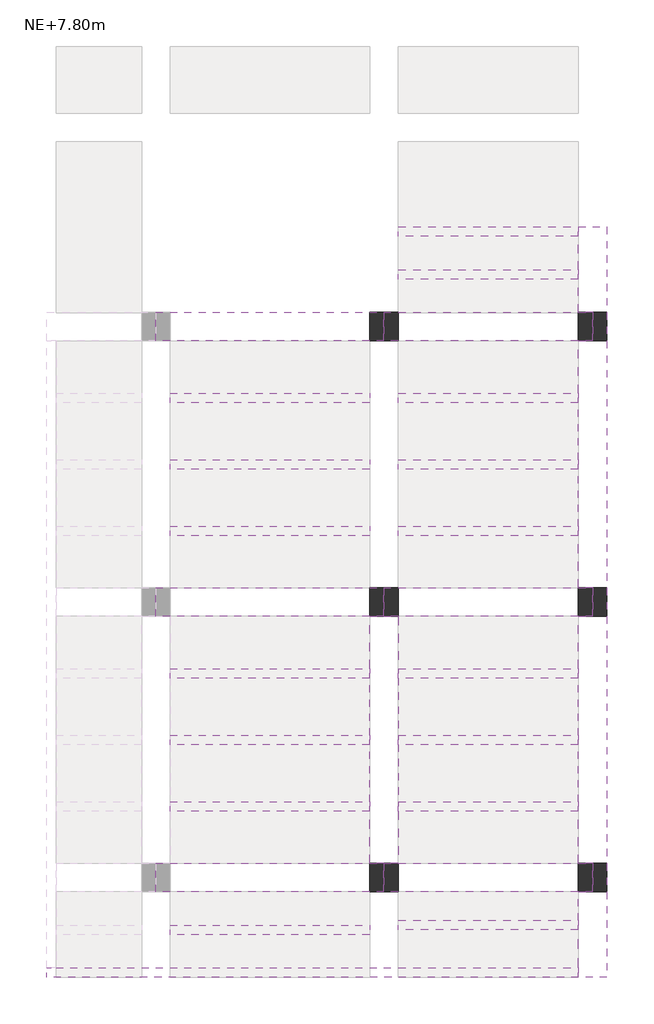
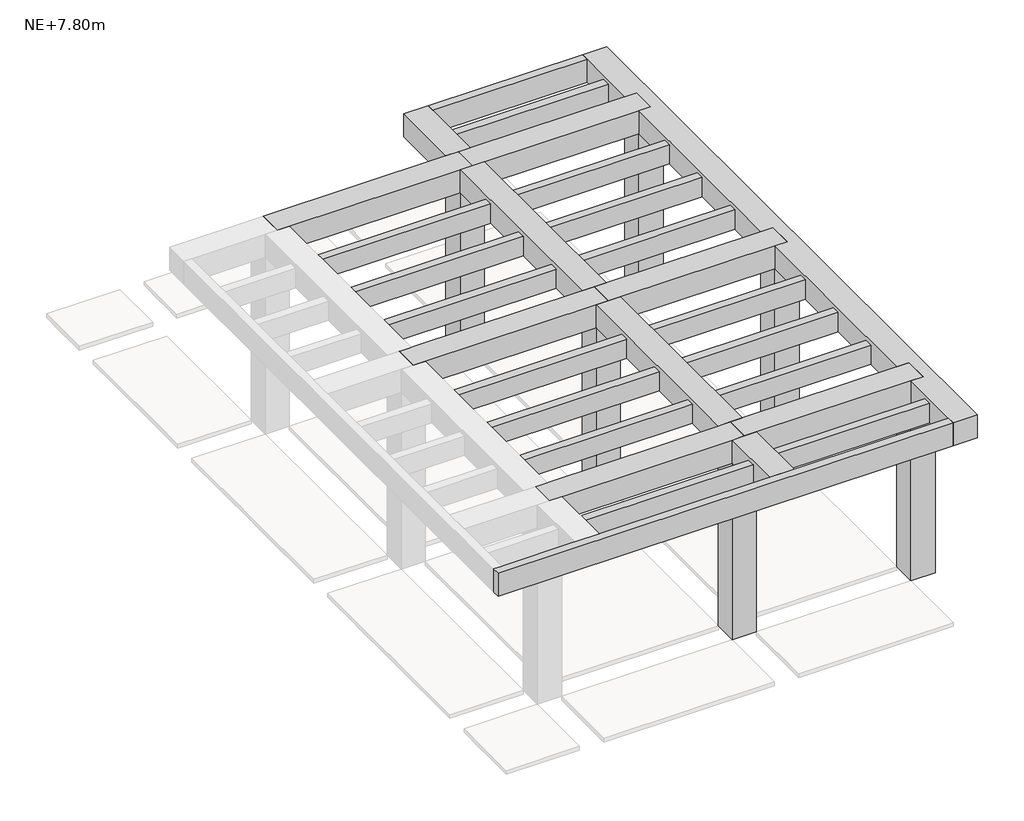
# One storey, part 2 of 2: 25 beams, 6 columns.
"""IFC4 building model written with IfcOpenShell, lengths in millimetres."""

from ifc_helpers import new_model, si_unit, frame, origin, place, context, project, spatial, polyline, outline, extrude, faceted_brep, element, save

model = new_model("IFC4")

# Units and contexts
model_context = context("Model", 3, world=origin())
ifc_project = project(units=[si_unit("LENGTHUNIT", "METRE", prefix="MILLI")], contexts=[model_context])

# Site, building, storey
site = spatial("IfcSite", under=ifc_project)
building = spatial("IfcBuilding", under=site)
storey = spatial("IfcBuildingStorey", under=building, Name="NE+7.80m", Elevation=7800.0)

# Beams
placement = place(None, origin())
element("IfcBeam", 1, ObjectType="Hormigón-Viga rectangular : VA (0.30x0.30m)", at=placement, inside=storey, context=model_context, shape_type="Brep", body=[
    faceted_brep([(1502.3188918, -1037.1867862, 10400.0), (1502.3188918, -1337.1867862, 10400.0), (1652.3188918, -1337.1867862, 10400.0), (3552.3188918, -1337.1867862, 10400.0), (3702.3188918, -1337.1867862, 10400.0), (3702.3188918, -1037.1867862, 10400.0), (3552.3188918, -1037.1867862, 10400.0), (1652.3188918, -1037.1867862, 10400.0), (3702.3188918, -1037.1867862, 10100.0), (3552.3188918, -1037.1867862, 10100.0), (1652.3188918, -1037.1867862, 10100.0), (1502.3188918, -1037.1867862, 10100.0), (3702.3188918, -1337.1867862, 10100.0), (3552.3188918, -1337.1867862, 10100.0), (1652.3188918, -1337.1867862, 10100.0), (1502.3188918, -1337.1867862, 10100.0)], [[[0, 1, 2, 3, 4, 5, 6, 7]], [[8, 9, 10, 11, 0, 7, 6, 5]], [[11, 10, 9, 8, 12, 13, 14, 15]], [[15, 14, 13, 12, 4, 3, 2, 1]], [[1, 0, 11, 15]], [[4, 12, 8, 5]]]),
])
element("IfcBeam", 2, ObjectType="Hormigón-Viga rectangular : VA (0.30x0.30m)", at=placement, inside=storey, context=model_context, shape_type="Brep", body=[
    faceted_brep([(1502.3188918, -1037.1867862, 10400.0), (1352.3188918, -1037.1867862, 10400.0), (-897.6811082, -1037.1867862, 10400.0), (-897.6811082, -1337.1867862, 10400.0), (-747.6811082, -1337.1867862, 10400.0), (1352.3188918, -1337.1867862, 10400.0), (1502.3188918, -1337.1867862, 10400.0), (1502.3188918, -1037.1867862, 10100.0), (1352.3188918, -1037.1867862, 10100.0), (-897.6811082, -1037.1867862, 10100.0), (1502.3188918, -1337.1867862, 10100.0), (1352.3188918, -1337.1867862, 10100.0), (-747.6811082, -1337.1867862, 10100.0), (-897.6811082, -1337.1867862, 10100.0)], [[[0, 1, 2, 3, 4, 5, 6]], [[2, 1, 0, 7, 8, 9]], [[9, 8, 7, 10, 11, 12, 13]], [[13, 12, 11, 10, 6, 5, 4, 3]], [[3, 2, 9, 13]], [[6, 10, 7, 0]]]),
])
element("IfcBeam", 3, ObjectType="Hormigón-Viga rectangular : VA (0.30x0.30m)", at=placement, inside=storey, context=model_context, shape_type="Brep", body=[
    faceted_brep([(1502.3188918, -3937.1867862, 10400.0), (1502.3188918, -4237.1867862, 10400.0), (1652.3188918, -4237.1867862, 10400.0), (3552.3188918, -4237.1867862, 10400.0), (3702.3188918, -4237.1867862, 10400.0), (3702.3188918, -3937.1867862, 10400.0), (3552.3188918, -3937.1867862, 10400.0), (1652.3188918, -3937.1867862, 10400.0), (3702.3188918, -3937.1867862, 10100.0), (3552.3188918, -3937.1867862, 10100.0), (1652.3188918, -3937.1867862, 10100.0), (1502.3188918, -3937.1867862, 10100.0), (3702.3188918, -4237.1867862, 10100.0), (3552.3188918, -4237.1867862, 10100.0), (1652.3188918, -4237.1867862, 10100.0), (1502.3188918, -4237.1867862, 10100.0)], [[[0, 1, 2, 3, 4, 5, 6, 7]], [[8, 9, 10, 11, 0, 7, 6, 5]], [[11, 10, 9, 8, 12, 13, 14, 15]], [[15, 14, 13, 12, 4, 3, 2, 1]], [[1, 0, 11, 15]], [[4, 12, 8, 5]]]),
])
element("IfcBeam", 4, ObjectType="Hormigón-Viga rectangular : VA (0.30x0.30m)", at=placement, inside=storey, context=model_context, shape_type="Brep", body=[
    faceted_brep([(-897.6811082, -3937.1867862, 10400.0), (-897.6811082, -4237.1867862, 10400.0), (-747.6811082, -4237.1867862, 10400.0), (1352.3188918, -4237.1867862, 10400.0), (1502.3188918, -4237.1867862, 10400.0), (1502.3188918, -3937.1867862, 10400.0), (1352.3188918, -3937.1867862, 10400.0), (-747.6811082, -3937.1867862, 10400.0), (1502.3188918, -3937.1867862, 10100.0), (1352.3188918, -3937.1867862, 10100.0), (-747.6811082, -3937.1867862, 10100.0), (-897.6811082, -3937.1867862, 10100.0), (1502.3188918, -4237.1867862, 10100.0), (1352.3188918, -4237.1867862, 10100.0), (-747.6811082, -4237.1867862, 10100.0), (-897.6811082, -4237.1867862, 10100.0)], [[[0, 1, 2, 3, 4, 5, 6, 7]], [[8, 9, 10, 11, 0, 7, 6, 5]], [[11, 10, 9, 8, 12, 13, 14, 15]], [[15, 14, 13, 12, 4, 3, 2, 1]], [[1, 0, 11, 15]], [[4, 12, 8, 5]]]),
])
element("IfcBeam", 5, ObjectType="Hormigón-Viga rectangular : VA (0.30x0.30m)", at=placement, inside=storey, context=model_context, shape_type="Brep", body=[
    faceted_brep([(3702.3188918, -7137.1867862, 10400.0), (3702.3188918, -6837.1867862, 10400.0), (3552.3188918, -6837.1867862, 10400.0), (1652.3188918, -6837.1867862, 10400.0), (1502.3188918, -6837.1867862, 10400.0), (1502.3188918, -7137.1867862, 10400.0), (1652.3188918, -7137.1867862, 10400.0), (3552.3188918, -7137.1867862, 10400.0), (3702.3188918, -6837.1867862, 10100.0), (3552.3188918, -6837.1867862, 10100.0), (1652.3188918, -6837.1867862, 10100.0), (1502.3188918, -6837.1867862, 10100.0), (3702.3188918, -7137.1867862, 10100.0), (3552.3188918, -7137.1867862, 10100.0), (1652.3188918, -7137.1867862, 10100.0), (1502.3188918, -7137.1867862, 10100.0)], [[[0, 1, 2, 3, 4, 5, 6, 7]], [[8, 9, 10, 11, 4, 3, 2, 1]], [[11, 10, 9, 8, 12, 13, 14, 15]], [[15, 14, 13, 12, 0, 7, 6, 5]], [[0, 12, 8, 1]], [[5, 4, 11, 15]]]),
])
element("IfcBeam", 6, ObjectType="Hormigón-Viga rectangular : VA (0.30x0.30m)", at=placement, inside=storey, context=model_context, shape_type="Brep", body=[
    faceted_brep([(1502.3188918, -7137.1867862, 10400.0), (1502.3188918, -6837.1867862, 10400.0), (1352.3188918, -6837.1867862, 10400.0), (-747.6811082, -6837.1867862, 10400.0), (-897.6811082, -6837.1867862, 10400.0), (-897.6811082, -7137.1867862, 10400.0), (-747.6811082, -7137.1867862, 10400.0), (1352.3188918, -7137.1867862, 10400.0), (1502.3188918, -6837.1867862, 10100.0), (1352.3188918, -6837.1867862, 10100.0), (-747.6811082, -6837.1867862, 10100.0), (-897.6811082, -6837.1867862, 10100.0), (1502.3188918, -7137.1867862, 10100.0), (1352.3188918, -7137.1867862, 10100.0), (-747.6811082, -7137.1867862, 10100.0), (-897.6811082, -7137.1867862, 10100.0)], [[[0, 1, 2, 3, 4, 5, 6, 7]], [[8, 9, 10, 11, 4, 3, 2, 1]], [[11, 10, 9, 8, 12, 13, 14, 15]], [[15, 14, 13, 12, 0, 7, 6, 5]], [[0, 12, 8, 1]], [[5, 4, 11, 15]]]),
])
element("IfcBeam", 7, ObjectType="Hormigón-Viga rectangular : VA (0.30x0.30m)", at=placement, inside=storey, context=model_context, shape_type="Brep", body=[
    faceted_brep([(3552.3188918, -1037.1867862, 10400.0), (3702.3188918, -1037.1867862, 10400.0), (3702.3188918, -1337.1867862, 10400.0), (3552.3188918, -1337.1867862, 10400.0), (3552.3188918, -3937.1867862, 10400.0), (3702.3188918, -3937.1867862, 10400.0), (3702.3188918, -4237.1867862, 10400.0), (3552.3188918, -4237.1867862, 10400.0), (3552.3188918, -6837.1867862, 10400.0), (3702.3188918, -6837.1867862, 10400.0), (3702.3188918, -7137.1867862, 10400.0), (3552.3188918, -7137.1867862, 10400.0), (3552.3188918, -7937.1867862, 10400.0), (3552.3188918, -8037.1867862, 10400.0), (3852.3188918, -8037.1867862, 10400.0), (3852.3188918, -137.1867862, 10400.0), (3552.3188918, -137.1867862, 10400.0), (3552.3188918, -237.1867862, 10400.0), (3852.3188918, -137.1867862, 10100.0), (3852.3188918, -8037.1867862, 10100.0), (3852.3188918, -7137.1867862, 10100.0), (3852.3188918, -6837.1867862, 10100.0), (3852.3188918, -4237.1867862, 10100.0), (3852.3188918, -3937.1867862, 10100.0), (3852.3188918, -1337.1867862, 10100.0), (3852.3188918, -1037.1867862, 10100.0), (3702.3188918, -1037.1867862, 10100.0), (3552.3188918, -1037.1867862, 10100.0), (3552.3188918, -687.1867862, 10100.0), (3552.3188918, -587.1867862, 10100.0), (3552.3188918, -237.1867862, 10100.0), (3552.3188918, -137.1867862, 10100.0), (3552.3188918, -8037.1867862, 10100.0), (3552.3188918, -7937.1867862, 10100.0), (3552.3188918, -7537.1867862, 10100.0), (3552.3188918, -7437.1867862, 10100.0), (3552.3188918, -7137.1867862, 10100.0), (3702.3188918, -7137.1867862, 10100.0), (3702.3188918, -6837.1867862, 10100.0), (3552.3188918, -6837.1867862, 10100.0), (3552.3188918, -6287.1867862, 10100.0), (3552.3188918, -6187.1867862, 10100.0), (3552.3188918, -5587.1867862, 10100.0), (3552.3188918, -5487.1867862, 10100.0), (3552.3188918, -4887.1867862, 10100.0), (3552.3188918, -4787.1867862, 10100.0), (3552.3188918, -4237.1867862, 10100.0), (3702.3188918, -4237.1867862, 10100.0), (3702.3188918, -3937.1867862, 10100.0), (3552.3188918, -3937.1867862, 10100.0), (3552.3188918, -3387.1867862, 10100.0), (3552.3188918, -3287.1867862, 10100.0), (3552.3188918, -2687.1867862, 10100.0), (3552.3188918, -2587.1867862, 10100.0), (3552.3188918, -1987.1867862, 10100.0), (3552.3188918, -1887.1867862, 10100.0), (3552.3188918, -1337.1867862, 10100.0), (3702.3188918, -1337.1867862, 10100.0), (3552.3188918, -7137.1867862, 10350.0), (3552.3188918, -1037.1867862, 10350.0), (3552.3188918, -1337.1867862, 10350.0), (3552.3188918, -3937.1867862, 10350.0), (3552.3188918, -4237.1867862, 10350.0), (3552.3188918, -6837.1867862, 10350.0)], [[[0, 1, 2, 3, 4, 5, 6, 7, 8, 9, 10, 11, 12, 13, 14, 15, 16, 17]], [[18, 15, 14, 19, 20, 21, 22, 23, 24, 25]], [[26, 27, 28, 29, 30, 31, 18, 25, 24, 23, 22, 21, 20, 19, 32, 33, 34, 35, 36, 37, 38, 39, 40, 41, 42, 43, 44, 45, 46, 47, 48, 49, 50, 51, 52, 53, 54, 55, 56, 57]], [[32, 13, 12, 11, 58, 36, 35, 34, 33]], [[26, 1, 0, 59, 27]], [[2, 57, 56, 60, 3]], [[1, 26, 57, 2]], [[27, 59, 0, 17, 16, 31, 30, 29, 28]], [[48, 5, 4, 61, 49]], [[6, 47, 46, 62, 7]], [[5, 48, 47, 6]], [[38, 9, 8, 63, 39]], [[10, 37, 36, 58, 11]], [[9, 38, 37, 10]], [[16, 15, 18, 31]], [[14, 13, 32, 19]], [[3, 60, 56, 55, 54, 53, 52, 51, 50, 49, 61, 4]], [[7, 62, 46, 45, 44, 43, 42, 41, 40, 39, 63, 8]]]),
])
element("IfcBeam", 8, ObjectType="Hormigón-Viga rectangular : VA (0.30x0.30m)", at=placement, inside=storey, context=model_context, shape_type="Brep", body=[
    faceted_brep([(1352.3188918, -1037.1867862, 10400.0), (1502.3188918, -1037.1867862, 10400.0), (1652.3188918, -1037.1867862, 10400.0), (1652.3188918, -237.1867862, 10400.0), (1652.3188918, -137.1867862, 10400.0), (1352.3188918, -137.1867862, 10400.0), (1352.3188918, -1037.1867862, 10100.0), (1352.3188918, -137.1867862, 10100.0), (1652.3188918, -1037.1867862, 10100.0), (1502.3188918, -1037.1867862, 10100.0), (1652.3188918, -137.1867862, 10100.0), (1652.3188918, -237.1867862, 10100.0), (1652.3188918, -587.1867862, 10100.0), (1652.3188918, -687.1867862, 10100.0), (1652.3188918, -1037.1867862, 10350.0)], [[[0, 1, 2, 3, 4, 5]], [[6, 0, 5, 7]], [[8, 9, 6, 7, 10, 11, 12, 13]], [[10, 4, 3, 2, 14, 8, 13, 12, 11]], [[0, 6, 9, 8, 14, 2, 1]], [[5, 4, 10, 7]]]),
    faceted_brep([(1352.3188918, -1337.1867862, 10400.0), (1502.3188918, -1337.1867862, 10400.0), (1652.3188918, -1337.1867862, 10400.0), (1652.3188918, -1337.1867862, 10350.0), (1652.3188918, -1337.1867862, 10100.0), (1502.3188918, -1337.1867862, 10100.0), (1352.3188918, -1337.1867862, 10100.0), (1352.3188918, -1337.1867862, 10350.0), (1652.3188918, -3937.1867862, 10400.0), (1502.3188918, -3937.1867862, 10400.0), (1352.3188918, -3937.1867862, 10400.0), (1352.3188918, -3937.1867862, 10350.0), (1352.3188918, -3937.1867862, 10100.0), (1502.3188918, -3937.1867862, 10100.0), (1652.3188918, -3937.1867862, 10100.0), (1652.3188918, -3937.1867862, 10350.0), (1652.3188918, -3387.1867862, 10100.0), (1652.3188918, -3287.1867862, 10100.0), (1652.3188918, -2687.1867862, 10100.0), (1652.3188918, -2587.1867862, 10100.0), (1652.3188918, -1987.1867862, 10100.0), (1652.3188918, -1887.1867862, 10100.0), (1352.3188918, -1887.1867862, 10100.0), (1352.3188918, -1987.1867862, 10100.0), (1352.3188918, -2587.1867862, 10100.0), (1352.3188918, -2687.1867862, 10100.0), (1352.3188918, -3287.1867862, 10100.0), (1352.3188918, -3387.1867862, 10100.0)], [[[0, 1, 2, 3, 4, 5, 6, 7]], [[8, 9, 10, 11, 12, 13, 14, 15]], [[14, 16, 17, 18, 19, 20, 21, 4, 3, 2, 8, 15]], [[2, 1, 0, 10, 9, 8]], [[10, 0, 7, 6, 22, 23, 24, 25, 26, 27, 12, 11]], [[6, 5, 4, 21, 20, 19, 18, 17, 16, 14, 13, 12, 27, 26, 25, 24, 23, 22]]]),
    faceted_brep([(1652.3188918, -6837.1867862, 10100.0), (1652.3188918, -6287.1867862, 10100.0), (1652.3188918, -6187.1867862, 10100.0), (1652.3188918, -5587.1867862, 10100.0), (1652.3188918, -5487.1867862, 10100.0), (1652.3188918, -4887.1867862, 10100.0), (1652.3188918, -4787.1867862, 10100.0), (1652.3188918, -4237.1867862, 10100.0), (1652.3188918, -4237.1867862, 10350.0), (1652.3188918, -4237.1867862, 10400.0), (1652.3188918, -6837.1867862, 10400.0), (1652.3188918, -6837.1867862, 10350.0), (1502.3188918, -4237.1867862, 10400.0), (1352.3188918, -4237.1867862, 10400.0), (1352.3188918, -6837.1867862, 10400.0), (1502.3188918, -6837.1867862, 10400.0), (1352.3188918, -4237.1867862, 10350.0), (1352.3188918, -4237.1867862, 10100.0), (1352.3188918, -4787.1867862, 10100.0), (1352.3188918, -4887.1867862, 10100.0), (1352.3188918, -5487.1867862, 10100.0), (1352.3188918, -5587.1867862, 10100.0), (1352.3188918, -6187.1867862, 10100.0), (1352.3188918, -6287.1867862, 10100.0), (1352.3188918, -6837.1867862, 10100.0), (1352.3188918, -6837.1867862, 10350.0), (1502.3188918, -4237.1867862, 10100.0), (1502.3188918, -6837.1867862, 10100.0)], [[[0, 1, 2, 3, 4, 5, 6, 7, 8, 9, 10, 11]], [[9, 12, 13, 14, 15, 10]], [[14, 13, 16, 17, 18, 19, 20, 21, 22, 23, 24, 25]], [[17, 26, 7, 6, 5, 4, 3, 2, 1, 0, 27, 24, 23, 22, 21, 20, 19, 18]], [[7, 26, 17, 16, 13, 12, 9, 8]], [[10, 15, 14, 25, 24, 27, 0, 11]]]),
    faceted_brep([(1652.3188918, -7137.1867862, 10100.0), (1502.3188918, -7137.1867862, 10100.0), (1352.3188918, -7137.1867862, 10100.0), (1352.3188918, -7137.1867862, 10350.0), (1352.3188918, -7137.1867862, 10400.0), (1502.3188918, -7137.1867862, 10400.0), (1652.3188918, -7137.1867862, 10400.0), (1652.3188918, -7137.1867862, 10350.0), (1652.3188918, -7937.1867862, 10100.0), (1652.3188918, -7537.1867862, 10100.0), (1652.3188918, -7437.1867862, 10100.0), (1652.3188918, -7937.1867862, 10400.0), (1652.3188918, -7937.1867862, 10350.0), (1352.3188918, -7937.1867862, 10400.0), (1352.3188918, -7487.1867862, 10100.0), (1352.3188918, -7587.1867862, 10100.0), (1352.3188918, -7937.1867862, 10100.0), (1352.3188918, -7937.1867862, 10350.0)], [[[0, 1, 2, 3, 4, 5, 6, 7]], [[8, 9, 10, 0, 7, 6, 11, 12]], [[6, 5, 4, 13, 11]], [[13, 4, 3, 2, 14, 15, 16, 17]], [[2, 1, 0, 10, 9, 8, 16, 15, 14]], [[11, 13, 17, 16, 8, 12]]]),
])
element("IfcBeam", 9, ObjectType="Hormigón-Viga rectangular : VB (0.10x0.30m)", at=placement, inside=storey, context=model_context, shape_type="Brep", body=[
    faceted_brep([(-2047.6811082, -7937.1867862, 10400.0), (-2047.6811082, -8037.1867862, 10400.0), (3552.3188918, -8037.1867862, 10400.0), (3552.3188918, -7937.1867862, 10400.0), (1652.3188918, -7937.1867862, 10400.0), (1352.3188918, -7937.1867862, 10400.0), (-747.6811082, -7937.1867862, 10400.0), (-1047.6811082, -7937.1867862, 10400.0), (-1947.6811082, -7937.1867862, 10400.0), (-2047.6811082, -7937.1867862, 10100.0), (3552.3188918, -7937.1867862, 10350.0), (3552.3188918, -7937.1867862, 10100.0), (1652.3188918, -7937.1867862, 10100.0), (1352.3188918, -7937.1867862, 10100.0), (-747.6811082, -7937.1867862, 10100.0), (-1047.6811082, -7937.1867862, 10100.0), (-1947.6811082, -7937.1867862, 10100.0), (-2047.6811082, -8037.1867862, 10100.0), (3552.3188918, -8037.1867862, 10100.0)], [[[0, 1, 2, 3, 4, 5, 6, 7, 8]], [[9, 0, 8, 7, 6, 5, 4, 3, 10, 11, 12, 13, 14, 15, 16]], [[17, 9, 16, 15, 14, 13, 12, 11, 18]], [[1, 17, 18, 2]], [[1, 0, 9, 17]], [[3, 2, 18, 11, 10]]]),
])
element("IfcBeam", 10, ObjectType="Hormigón-Viga rectangular : VB (0.10x0.30m)", at=placement, inside=storey, context=model_context, shape_type="Brep", body=[
    faceted_brep([(1652.3188918, -137.1867862, 10400.0), (1652.3188918, -237.1867862, 10400.0), (3552.3188918, -237.1867862, 10400.0), (3552.3188918, -137.1867862, 10400.0), (1652.3188918, -137.1867862, 10100.0), (3552.3188918, -137.1867862, 10100.0), (1652.3188918, -237.1867862, 10100.0), (3552.3188918, -237.1867862, 10100.0), (1652.3188918, -237.1867862, 10350.0), (3552.3188918, -237.1867862, 10350.0)], [[[0, 1, 2, 3]], [[4, 0, 3, 5]], [[6, 4, 5, 7]], [[1, 8, 6, 7, 9, 2]], [[1, 0, 4, 6, 8]], [[3, 2, 9, 7, 5]]]),
])
element("IfcBeam", 11, ObjectType="Hormigón-Viga rectangular : VT (0.10x0.30m)", at=placement, inside=storey, context=model_context, shape_type="SweptSolid", body=[
    extrude(outline(polyline([(3552.3188918, -7437.1867862), (3552.3188918, -7537.1867862), (1652.3188918, -7537.1867862), (1652.3188918, -7437.1867862), (3552.3188918, -7437.1867862)])), frame((0.0, 0.0, 10100.0), z_axis=(0.0, 0.0, 1.0), x_axis=(1.0, 0.0, 0.0)), (0.0, 0.0, 1.0), 250.0),
])
element("IfcBeam", 12, ObjectType="Hormigón-Viga rectangular : VT (0.10x0.30m)", at=placement, inside=storey, context=model_context, shape_type="SweptSolid", body=[
    extrude(outline(polyline([(3552.3188918, -6187.1867862), (3552.3188918, -6287.1867862), (1652.3188918, -6287.1867862), (1652.3188918, -6187.1867862), (3552.3188918, -6187.1867862)])), frame((0.0, 0.0, 10100.0), z_axis=(0.0, 0.0, 1.0), x_axis=(1.0, 0.0, 0.0)), (0.0, 0.0, 1.0), 250.0),
])
element("IfcBeam", 13, ObjectType="Hormigón-Viga rectangular : VT (0.10x0.30m)", at=placement, inside=storey, context=model_context, shape_type="SweptSolid", body=[
    extrude(outline(polyline([(3552.3188918, -5487.1867862), (3552.3188918, -5587.1867862), (1652.3188918, -5587.1867862), (1652.3188918, -5487.1867862), (3552.3188918, -5487.1867862)])), frame((0.0, 0.0, 10100.0), z_axis=(0.0, 0.0, 1.0), x_axis=(1.0, 0.0, 0.0)), (0.0, 0.0, 1.0), 250.0),
])
element("IfcBeam", 14, ObjectType="Hormigón-Viga rectangular : VT (0.10x0.30m)", at=placement, inside=storey, context=model_context, shape_type="SweptSolid", body=[
    extrude(outline(polyline([(3552.3188918, -4787.1867862), (3552.3188918, -4887.1867862), (1652.3188918, -4887.1867862), (1652.3188918, -4787.1867862), (3552.3188918, -4787.1867862)])), frame((0.0, 0.0, 10100.0), z_axis=(0.0, 0.0, 1.0), x_axis=(1.0, 0.0, 0.0)), (0.0, 0.0, 1.0), 250.0),
])
element("IfcBeam", 15, ObjectType="Hormigón-Viga rectangular : VT (0.10x0.30m)", at=placement, inside=storey, context=model_context, shape_type="SweptSolid", body=[
    extrude(outline(polyline([(1352.3188918, -6187.1867862), (1352.3188918, -6287.1867862), (-747.6811082, -6287.1867862), (-747.6811082, -6187.1867862), (1352.3188918, -6187.1867862)])), frame((0.0, 0.0, 10100.0), z_axis=(0.0, 0.0, 1.0), x_axis=(1.0, 0.0, 0.0)), (0.0, 0.0, 1.0), 250.0),
])
element("IfcBeam", 16, ObjectType="Hormigón-Viga rectangular : VT (0.10x0.30m)", at=placement, inside=storey, context=model_context, shape_type="SweptSolid", body=[
    extrude(outline(polyline([(1352.3188918, -5487.1867862), (1352.3188918, -5587.1867862), (-747.6811082, -5587.1867862), (-747.6811082, -5487.1867862), (1352.3188918, -5487.1867862)])), frame((0.0, 0.0, 10100.0), z_axis=(0.0, 0.0, 1.0), x_axis=(1.0, 0.0, 0.0)), (0.0, 0.0, 1.0), 250.0),
])
element("IfcBeam", 17, ObjectType="Hormigón-Viga rectangular : VT (0.10x0.30m)", at=placement, inside=storey, context=model_context, shape_type="SweptSolid", body=[
    extrude(outline(polyline([(1352.3188918, -4787.1867862), (1352.3188918, -4887.1867862), (-747.6811082, -4887.1867862), (-747.6811082, -4787.1867862), (1352.3188918, -4787.1867862)])), frame((0.0, 0.0, 10100.0), z_axis=(0.0, 0.0, 1.0), x_axis=(1.0, 0.0, 0.0)), (0.0, 0.0, 1.0), 250.0),
])
element("IfcBeam", 18, ObjectType="Hormigón-Viga rectangular : VT (0.10x0.30m)", at=placement, inside=storey, context=model_context, shape_type="SweptSolid", body=[
    extrude(outline(polyline([(1352.3188918, -3287.1867862), (1352.3188918, -3387.1867862), (-747.6811082, -3387.1867862), (-747.6811082, -3287.1867862), (1352.3188918, -3287.1867862)])), frame((0.0, 0.0, 10100.0), z_axis=(0.0, 0.0, 1.0), x_axis=(1.0, 0.0, 0.0)), (0.0, 0.0, 1.0), 250.0),
])
element("IfcBeam", 19, ObjectType="Hormigón-Viga rectangular : VT (0.10x0.30m)", at=placement, inside=storey, context=model_context, shape_type="SweptSolid", body=[
    extrude(outline(polyline([(1352.3188918, -2587.1867862), (1352.3188918, -2687.1867862), (-747.6811082, -2687.1867862), (-747.6811082, -2587.1867862), (1352.3188918, -2587.1867862)])), frame((0.0, 0.0, 10100.0), z_axis=(0.0, 0.0, 1.0), x_axis=(1.0, 0.0, 0.0)), (0.0, 0.0, 1.0), 250.0),
])
element("IfcBeam", 20, ObjectType="Hormigón-Viga rectangular : VT (0.10x0.30m)", at=placement, inside=storey, context=model_context, shape_type="SweptSolid", body=[
    extrude(outline(polyline([(1352.3188918, -1887.1867862), (1352.3188918, -1987.1867862), (-747.6811082, -1987.1867862), (-747.6811082, -1887.1867862), (1352.3188918, -1887.1867862)])), frame((0.0, 0.0, 10100.0), z_axis=(0.0, 0.0, 1.0), x_axis=(1.0, 0.0, 0.0)), (0.0, 0.0, 1.0), 250.0),
])
element("IfcBeam", 21, ObjectType="Hormigón-Viga rectangular : VT (0.10x0.30m)", at=placement, inside=storey, context=model_context, shape_type="SweptSolid", body=[
    extrude(outline(polyline([(3552.3188918, -3287.1867862), (3552.3188918, -3387.1867862), (1652.3188918, -3387.1867862), (1652.3188918, -3287.1867862), (3552.3188918, -3287.1867862)])), frame((0.0, 0.0, 10100.0), z_axis=(0.0, 0.0, 1.0), x_axis=(1.0, 0.0, 0.0)), (0.0, 0.0, 1.0), 250.0),
])
element("IfcBeam", 22, ObjectType="Hormigón-Viga rectangular : VT (0.10x0.30m)", at=placement, inside=storey, context=model_context, shape_type="SweptSolid", body=[
    extrude(outline(polyline([(3552.3188918, -2587.1867862), (3552.3188918, -2687.1867862), (1652.3188918, -2687.1867862), (1652.3188918, -2587.1867862), (3552.3188918, -2587.1867862)])), frame((0.0, 0.0, 10100.0), z_axis=(0.0, 0.0, 1.0), x_axis=(1.0, 0.0, 0.0)), (0.0, 0.0, 1.0), 250.0),
])
element("IfcBeam", 23, ObjectType="Hormigón-Viga rectangular : VT (0.10x0.30m)", at=placement, inside=storey, context=model_context, shape_type="SweptSolid", body=[
    extrude(outline(polyline([(3552.3188918, -1887.1867862), (3552.3188918, -1987.1867862), (1652.3188918, -1987.1867862), (1652.3188918, -1887.1867862), (3552.3188918, -1887.1867862)])), frame((0.0, 0.0, 10100.0), z_axis=(0.0, 0.0, 1.0), x_axis=(1.0, 0.0, 0.0)), (0.0, 0.0, 1.0), 250.0),
])
element("IfcBeam", 24, ObjectType="Hormigón-Viga rectangular : VT (0.10x0.30m)", at=placement, inside=storey, context=model_context, shape_type="SweptSolid", body=[
    extrude(outline(polyline([(1352.3188918, -7487.1867862), (1352.3188918, -7587.1867862), (-747.6811082, -7587.1867862), (-747.6811082, -7487.1867862), (1352.3188918, -7487.1867862)])), frame((0.0, 0.0, 10100.0), z_axis=(0.0, 0.0, 1.0), x_axis=(1.0, 0.0, 0.0)), (0.0, 0.0, 1.0), 250.0),
])
element("IfcBeam", 25, ObjectType="Hormigón-Viga rectangular : VT (0.10x0.30m)", at=placement, inside=storey, context=model_context, shape_type="SweptSolid", body=[
    extrude(outline(polyline([(3552.3188918, -587.1867862), (3552.3188918, -687.1867862), (1652.3188918, -687.1867862), (1652.3188918, -587.1867862), (3552.3188918, -587.1867862)])), frame((0.0, 0.0, 10100.0), z_axis=(0.0, 0.0, 1.0), x_axis=(1.0, 0.0, 0.0)), (0.0, 0.0, 1.0), 250.0),
])

# Columns
element("IfcColumn", 26, ObjectType="Hormigón-Rectangular-Pilar : C1 (0.30x0.30m)", at=placement, inside=storey, context=model_context, shape_type="SweptSolid", body=[
    extrude(outline(polyline([(1652.3188918, -1037.1867862), (1652.3188918, -1337.1867862), (1352.3188918, -1337.1867862), (1352.3188918, -1037.1867862), (1652.3188918, -1037.1867862)])), frame((0.0, 0.0, 7800.0), z_axis=(0.0, 0.0, 1.0), x_axis=(1.0, 0.0, 0.0)), (0.0, 0.0, 1.0), 2300.0),
])
element("IfcColumn", 27, ObjectType="Hormigón-Rectangular-Pilar : C1 (0.30x0.30m)", at=placement, inside=storey, context=model_context, shape_type="SweptSolid", body=[
    extrude(outline(polyline([(3852.3188918, -1037.1867862), (3852.3188918, -1337.1867862), (3552.3188918, -1337.1867862), (3552.3188918, -1037.1867862), (3852.3188918, -1037.1867862)])), frame((0.0, 0.0, 7800.0), z_axis=(0.0, 0.0, 1.0), x_axis=(1.0, 0.0, 0.0)), (0.0, 0.0, 1.0), 2300.0),
])
element("IfcColumn", 28, ObjectType="Hormigón-Rectangular-Pilar : C1 (0.30x0.30m)", at=placement, inside=storey, context=model_context, shape_type="SweptSolid", body=[
    extrude(outline(polyline([(1652.3188918, -3937.1867862), (1652.3188918, -4237.1867862), (1352.3188918, -4237.1867862), (1352.3188918, -3937.1867862), (1652.3188918, -3937.1867862)])), frame((0.0, 0.0, 7800.0), z_axis=(0.0, 0.0, 1.0), x_axis=(1.0, 0.0, 0.0)), (0.0, 0.0, 1.0), 2300.0),
])
element("IfcColumn", 29, ObjectType="Hormigón-Rectangular-Pilar : C1 (0.30x0.30m)", at=placement, inside=storey, context=model_context, shape_type="SweptSolid", body=[
    extrude(outline(polyline([(3852.3188918, -3937.1867862), (3852.3188918, -4237.1867862), (3552.3188918, -4237.1867862), (3552.3188918, -3937.1867862), (3852.3188918, -3937.1867862)])), frame((0.0, 0.0, 7800.0), z_axis=(0.0, 0.0, 1.0), x_axis=(1.0, 0.0, 0.0)), (0.0, 0.0, 1.0), 2300.0),
])
element("IfcColumn", 30, ObjectType="Hormigón-Rectangular-Pilar : C1 (0.30x0.30m)", at=placement, inside=storey, context=model_context, shape_type="SweptSolid", body=[
    extrude(outline(polyline([(3852.3188918, -6837.1867862), (3852.3188918, -7137.1867862), (3552.3188918, -7137.1867862), (3552.3188918, -6837.1867862), (3852.3188918, -6837.1867862)])), frame((0.0, 0.0, 7800.0), z_axis=(0.0, 0.0, 1.0), x_axis=(1.0, 0.0, 0.0)), (0.0, 0.0, 1.0), 2300.0),
])
element("IfcColumn", 31, ObjectType="Hormigón-Rectangular-Pilar : C1 (0.30x0.30m)", at=placement, inside=storey, context=model_context, shape_type="SweptSolid", body=[
    extrude(outline(polyline([(1652.3188918, -6837.1867862), (1652.3188918, -7137.1867862), (1352.3188918, -7137.1867862), (1352.3188918, -6837.1867862), (1652.3188918, -6837.1867862)])), frame((0.0, 0.0, 7800.0), z_axis=(0.0, 0.0, 1.0), x_axis=(1.0, 0.0, 0.0)), (0.0, 0.0, 1.0), 2300.0),
])

save(model, "model.ifc")
